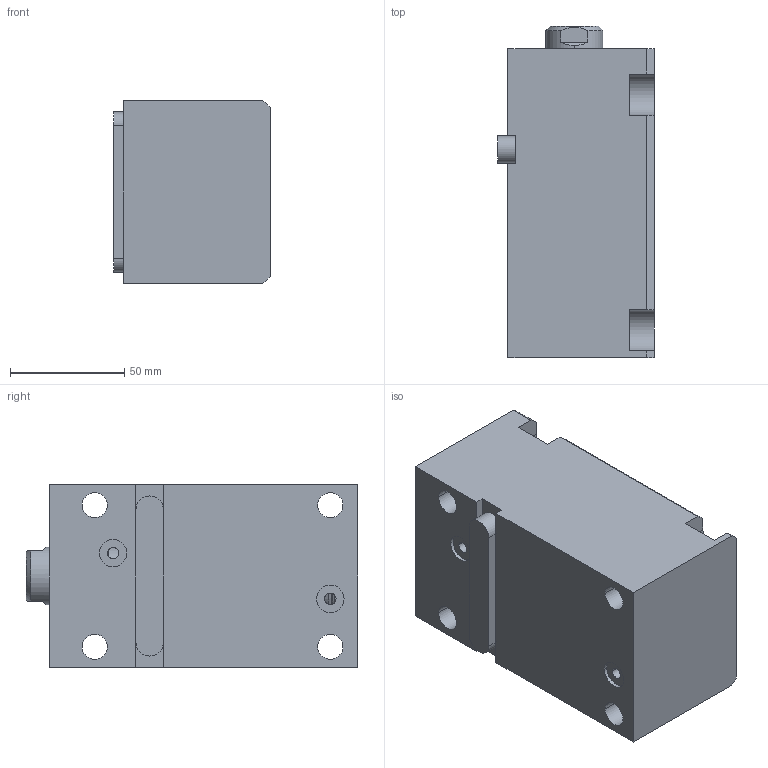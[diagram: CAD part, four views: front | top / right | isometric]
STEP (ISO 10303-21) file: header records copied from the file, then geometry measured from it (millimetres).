
FILE_DESCRIPTION (( 'STEP AP214' ), '1' );
FILE_NAME ('chtb-lam40x80n_asm.STEP', '2018-05-29T08:06:59', ( 'Windows' ), ( 'Microsoft' ), 'SwSTEP 2.0', 'SolidWorks 2015', '' );
FILE_SCHEMA (( 'AUTOMOTIVE_DESIGN' ));
Length unit declared in the file: millimetre
Products named in the file (5): CHTB-SD40X80NHSG; CHTB-SD40QG; CHTB-LAM40X80NBT; CHTB-LA40PJ; chtb-lam40x80n_asm
Assembly tree (4 placements, depth 2):
  chtb-lam40x80n_asm
    CHTB-LA40PJ
    CHTB-LAM40X80NBT
    CHTB-SD40QG
    CHTB-SD40X80NHSG
Bounding box: 68.5 x 145 x 80 mm (x, y, z)
Volume: 593048.9 mm3; surface area: 104013.1 mm2
Topology: 4 solids, 4 shells, 154 faces, 418 edges, 278 vertices
Faces by surface type: cylinder 73, plane 46, bspline 14, torus 12, cone 9
Entity records: 10092 total; most frequent: CARTESIAN_POINT 6074, ORIENTED_EDGE 824, DIRECTION 755, EDGE_CURVE 412, AXIS2_PLACEMENT_3D 300, VERTEX_POINT 278, EDGE_LOOP 180, LINE 155
